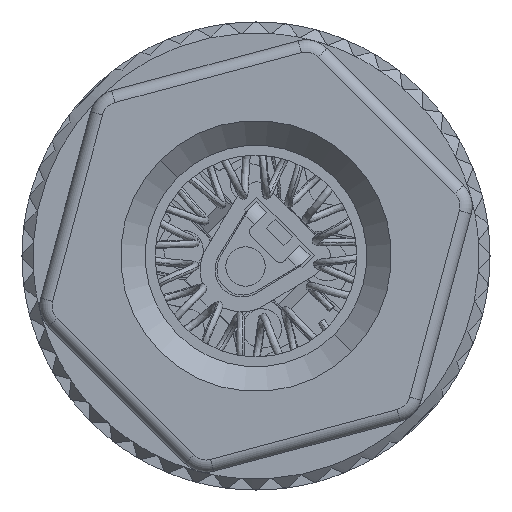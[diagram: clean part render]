
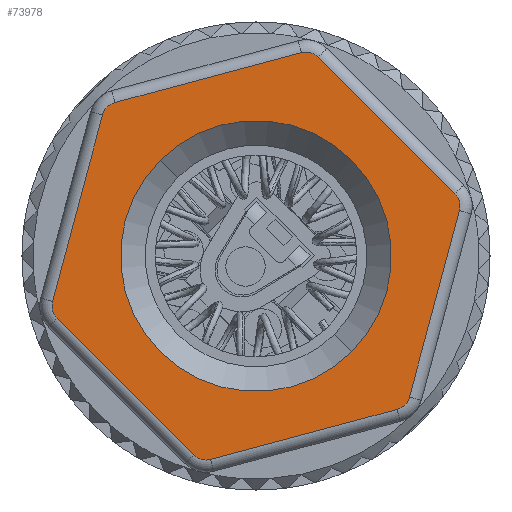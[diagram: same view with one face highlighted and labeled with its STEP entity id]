
A CAD part, front view. The second image highlights one B-rep face of the part: STEP entity #73978.
In plain terms, the highlighted planar face has unit normal (0, -1, 0).
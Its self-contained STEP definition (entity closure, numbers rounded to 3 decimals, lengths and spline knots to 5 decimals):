
#22282=CARTESIAN_POINT('',(0.32515,-2.25394,
0.07263));
#22283=CARTESIAN_POINT('',(0.32566,-2.25394,
0.07451));
#22284=CARTESIAN_POINT('',(0.32626,-2.25394,
0.07831));
#22285=CARTESIAN_POINT('',(0.32597,-2.25394,
0.08421));
#22286=CARTESIAN_POINT('',(0.32445,-2.25394,
0.08993));
#22287=CARTESIAN_POINT('',(0.32174,-2.25394,
0.09522));
#22288=CARTESIAN_POINT('',(0.31932,-2.25394,
0.09824));
#22289=CARTESIAN_POINT('',(0.31793,-2.25394,
0.09964));
#22291=DIRECTION('',(0.259,0.,0.966));
#22292=VECTOR('',#22291,0.30866);
#22293=CARTESIAN_POINT('',(0.24525,-2.25394,
-0.22552));
#22294=LINE('',#22293,#22292);
#22295=CARTESIAN_POINT('',(0.22547,-2.25394,
-0.24528));
#22296=CARTESIAN_POINT('',(0.22736,-2.25394,
-0.24477));
#22297=CARTESIAN_POINT('',(0.23095,-2.25394,
-0.2434));
#22298=CARTESIAN_POINT('',(0.23592,-2.25394,
-0.24019));
#22299=CARTESIAN_POINT('',(0.24011,-2.25394,
-0.23602));
#22300=CARTESIAN_POINT('',(0.24333,-2.25394,
-0.23103));
#22301=CARTESIAN_POINT('',(0.24474,-2.25394,
-0.22742));
#22302=CARTESIAN_POINT('',(0.24525,-2.25394,
-0.22552));
#22304=DIRECTION('',(0.966,0.,0.259));
#22305=VECTOR('',#22304,0.30866);
#22306=CARTESIAN_POINT('',(-0.07268,-2.25394,
-0.32515));
#22307=LINE('',#22306,#22305);
#22308=CARTESIAN_POINT('',(-0.09968,-2.25394,
-0.3179));
#22309=CARTESIAN_POINT('',(-0.0983,-2.25394,
-0.31928));
#22310=CARTESIAN_POINT('',(-0.09532,-2.25394,
-0.3217));
#22311=CARTESIAN_POINT('',(-0.09006,-2.25394,
-0.32441));
#22312=CARTESIAN_POINT('',(-0.08434,-2.25394,
-0.32595));
#22313=CARTESIAN_POINT('',(-0.07841,-2.25394,
-0.32625));
#22314=CARTESIAN_POINT('',(-0.07458,-2.25394,
-0.32566));
#22315=CARTESIAN_POINT('',(-0.07268,-2.25394,
-0.32515));
#22317=DIRECTION('',(0.707,0.,-0.707));
#22318=VECTOR('',#22317,0.30866);
#22319=CARTESIAN_POINT('',(-0.31793,-2.25394,
-0.09964));
#22320=LINE('',#22319,#22318);
#22321=CARTESIAN_POINT('',(-0.32515,-2.25394,
-0.07263));
#22322=CARTESIAN_POINT('',(-0.32566,-2.25394,
-0.07451));
#22323=CARTESIAN_POINT('',(-0.32626,-2.25394,
-0.07831));
#22324=CARTESIAN_POINT('',(-0.32597,-2.25394,
-0.08421));
#22325=CARTESIAN_POINT('',(-0.32445,-2.25394,
-0.08993));
#22326=CARTESIAN_POINT('',(-0.32174,-2.25394,
-0.09522));
#22327=CARTESIAN_POINT('',(-0.31932,-2.25394,
-0.09824));
#22328=CARTESIAN_POINT('',(-0.31793,-2.25394,
-0.09964));
#22330=DIRECTION('',(-0.259,0.,-0.966));
#22331=VECTOR('',#22330,0.30866);
#22332=CARTESIAN_POINT('',(-0.24525,-2.25394,
0.22552));
#22333=LINE('',#22332,#22331);
#22334=CARTESIAN_POINT('',(-0.22547,-2.25394,
0.24528));
#22335=CARTESIAN_POINT('',(-0.22736,-2.25394,
0.24477));
#22336=CARTESIAN_POINT('',(-0.23095,-2.25394,
0.2434));
#22337=CARTESIAN_POINT('',(-0.23592,-2.25394,
0.24019));
#22338=CARTESIAN_POINT('',(-0.24011,-2.25394,
0.23602));
#22339=CARTESIAN_POINT('',(-0.24333,-2.25394,
0.23103));
#22340=CARTESIAN_POINT('',(-0.24474,-2.25394,
0.22742));
#22341=CARTESIAN_POINT('',(-0.24525,-2.25394,
0.22552));
#22343=DIRECTION('',(-0.966,0.,-0.259));
#22344=VECTOR('',#22343,0.30858);
#22345=CARTESIAN_POINT('',(0.0726,-2.25394,
0.32514));
#22346=LINE('',#22345,#22344);
#22347=CARTESIAN_POINT('',(0.07986,-2.25394,
0.29804));
#22348=DIRECTION('',(0.,-1.,0.));
#22349=DIRECTION('',(0.707,0.,0.707));
#22350=AXIS2_PLACEMENT_3D('',#22347,#22348,#22349);
#22352=DIRECTION('',(-0.707,0.,0.707));
#22353=VECTOR('',#22352,0.30863);
#22354=CARTESIAN_POINT('',(0.31793,-2.25394,
0.09964));
#22355=LINE('',#22354,#22353);
#22356=CARTESIAN_POINT('',(0.,-2.25394,0.));
#22357=DIRECTION('',(0.,1.,0.));
#22358=DIRECTION('',(0.707,0.,-0.707));
#22359=AXIS2_PLACEMENT_3D('',#22356,#22357,#22358);
#22361=CARTESIAN_POINT('',(0.,-2.25394,0.));
#22362=DIRECTION('',(0.,1.,0.));
#22363=DIRECTION('',(-0.707,0.,0.707));
#22364=AXIS2_PLACEMENT_3D('',#22361,#22362,#22363);
#45045=CARTESIAN_POINT('',(0.15311,-2.25394,
-0.15311));
#45046=CARTESIAN_POINT('',(-0.15311,-2.25394,
0.15311));
#45047=VERTEX_POINT('',#45045);
#45048=VERTEX_POINT('',#45046);
#45750=VERTEX_POINT('',#22282);
#45751=VERTEX_POINT('',#22289);
#45756=CARTESIAN_POINT('',(0.0997,-2.25394,
0.31788));
#45757=VERTEX_POINT('',#45756);
#45760=CARTESIAN_POINT('',(0.0726,-2.25394,
0.32514));
#45761=VERTEX_POINT('',#45760);
#45764=CARTESIAN_POINT('',(-0.22547,-2.25394,
0.24528));
#45765=VERTEX_POINT('',#45764);
#45768=VERTEX_POINT('',#22341);
#45771=CARTESIAN_POINT('',(-0.32515,-2.25394,
-0.07263));
#45772=VERTEX_POINT('',#45771);
#45775=VERTEX_POINT('',#22328);
#45778=CARTESIAN_POINT('',(-0.09968,-2.25394,
-0.3179));
#45779=VERTEX_POINT('',#45778);
#45782=VERTEX_POINT('',#22315);
#45785=CARTESIAN_POINT('',(0.22547,-2.25394,
-0.24528));
#45786=VERTEX_POINT('',#45785);
#45789=VERTEX_POINT('',#22302);
#73942=CARTESIAN_POINT('',(0.,-2.25394,0.));
#73943=DIRECTION('',(0.,1.,0.));
#73944=DIRECTION('',(0.707,0.,-0.707));
#73945=AXIS2_PLACEMENT_3D('',#73942,#73943,#73944);
#73946=PLANE('',#73945);
#73948=ORIENTED_EDGE('',*,*,#73947,.F.);
#73950=ORIENTED_EDGE('',*,*,#73949,.F.);
#73952=ORIENTED_EDGE('',*,*,#73951,.F.);
#73954=ORIENTED_EDGE('',*,*,#73953,.F.);
#73956=ORIENTED_EDGE('',*,*,#73955,.F.);
#73958=ORIENTED_EDGE('',*,*,#73957,.F.);
#73960=ORIENTED_EDGE('',*,*,#73959,.F.);
#73962=ORIENTED_EDGE('',*,*,#73961,.F.);
#73964=ORIENTED_EDGE('',*,*,#73963,.F.);
#73966=ORIENTED_EDGE('',*,*,#73965,.F.);
#73967=ORIENTED_EDGE('',*,*,#73932,.F.);
#73969=ORIENTED_EDGE('',*,*,#73968,.F.);
#73970=EDGE_LOOP('',(#73948,#73950,#73952,#73954,#73956,#73958,#73960,#73962,
#73964,#73966,#73967,#73969));
#73971=FACE_OUTER_BOUND('',#73970,.F.);
#73973=ORIENTED_EDGE('',*,*,#73972,.F.);
#73975=ORIENTED_EDGE('',*,*,#73974,.F.);
#73976=EDGE_LOOP('',(#73973,#73975));
#73977=FACE_BOUND('',#73976,.F.);
#73978=ADVANCED_FACE('',(#73971,#73977),#73946,.F.);
#22290=B_SPLINE_CURVE_WITH_KNOTS('',3,(#22282,#22283,#22284,#22285,#22286,
#22287,#22288,#22289),.UNSPECIFIED.,.F.,.F.,(4,1,1,1,1,4),(0.,0.2,0.4,
0.6,0.8,1.),.UNSPECIFIED.);
#22303=B_SPLINE_CURVE_WITH_KNOTS('',3,(#22295,#22296,#22297,#22298,#22299,
#22300,#22301,#22302),.UNSPECIFIED.,.F.,.F.,(4,1,1,1,1,4),(0.,0.2,0.4,
0.6,0.8,1.),.UNSPECIFIED.);
#22316=B_SPLINE_CURVE_WITH_KNOTS('',3,(#22308,#22309,#22310,#22311,#22312,
#22313,#22314,#22315),.UNSPECIFIED.,.F.,.F.,(4,1,1,1,1,4),(0.,0.2,0.4,
0.6,0.8,1.),.UNSPECIFIED.);
#22329=B_SPLINE_CURVE_WITH_KNOTS('',3,(#22321,#22322,#22323,#22324,#22325,
#22326,#22327,#22328),.UNSPECIFIED.,.F.,.F.,(4,1,1,1,1,4),(0.,0.2,0.4,
0.6,0.8,1.),.UNSPECIFIED.);
#22342=B_SPLINE_CURVE_WITH_KNOTS('',3,(#22334,#22335,#22336,#22337,#22338,
#22339,#22340,#22341),.UNSPECIFIED.,.F.,.F.,(4,1,1,1,1,4),(0.,0.2,0.4,
0.6,0.8,1.),.UNSPECIFIED.);
#22351=CIRCLE('',#22350,0.02806);
#22360=CIRCLE('',#22359,0.21654);
#22365=CIRCLE('',#22364,0.21654);
#73932=EDGE_CURVE('',#45757,#45761,#22351,.T.);
#73947=EDGE_CURVE('',#45750,#45751,#22290,.T.);
#73949=EDGE_CURVE('',#45789,#45750,#22294,.T.);
#73951=EDGE_CURVE('',#45786,#45789,#22303,.T.);
#73953=EDGE_CURVE('',#45782,#45786,#22307,.T.);
#73955=EDGE_CURVE('',#45779,#45782,#22316,.T.);
#73957=EDGE_CURVE('',#45775,#45779,#22320,.T.);
#73959=EDGE_CURVE('',#45772,#45775,#22329,.T.);
#73961=EDGE_CURVE('',#45768,#45772,#22333,.T.);
#73963=EDGE_CURVE('',#45765,#45768,#22342,.T.);
#73965=EDGE_CURVE('',#45761,#45765,#22346,.T.);
#73968=EDGE_CURVE('',#45751,#45757,#22355,.T.);
#73972=EDGE_CURVE('',#45047,#45048,#22360,.T.);
#73974=EDGE_CURVE('',#45048,#45047,#22365,.T.);
